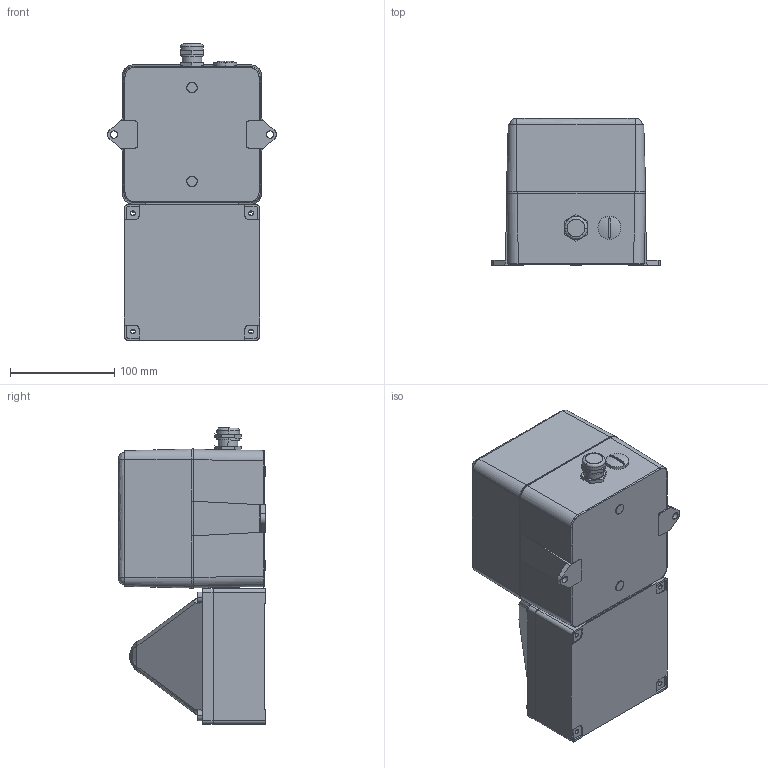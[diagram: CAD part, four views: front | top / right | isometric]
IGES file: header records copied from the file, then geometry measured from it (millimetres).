
Start section: SolidWorks IGES file using analytic representation for surfaces
Global section: file name: C:\PDMWTemp\DSF-DSC.IGS; native system: SolidWorks 2009; preprocessor: SolidWorks 2009; author: MMark; date: 091027.141137; units: millimetre
Bounding box: 161.93 x 140.8 x 284.32 mm (x, y, z)
Surface area: 220199.6 mm2 (no closed solid volume)
Topology: 0 solids, 0 shells, 410 faces, 7932 edges, 7928 vertices
Faces by surface type: bspline 284, revolution 126
